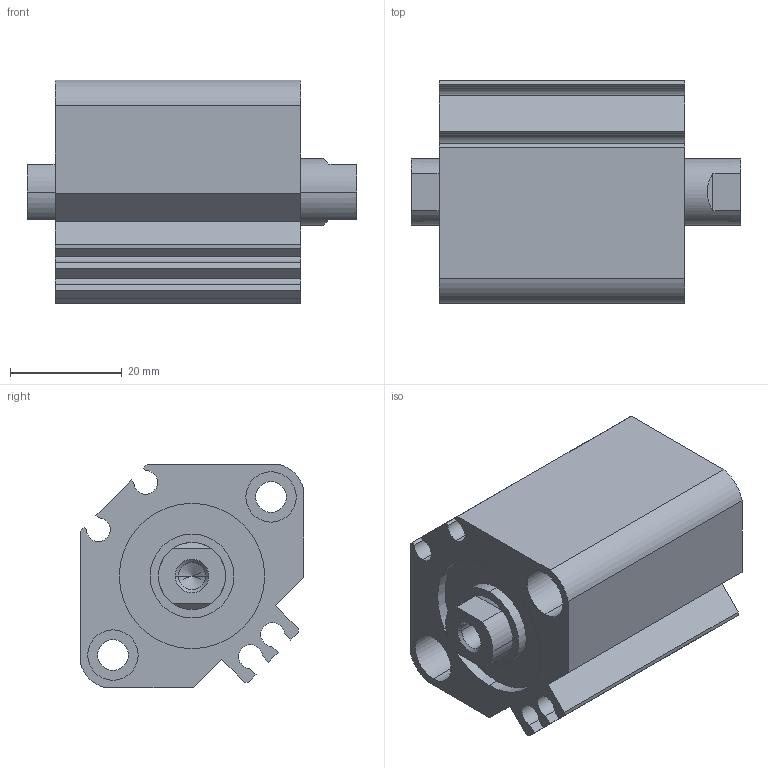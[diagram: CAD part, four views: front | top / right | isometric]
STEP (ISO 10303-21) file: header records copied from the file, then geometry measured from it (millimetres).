
FILE_DESCRIPTION (( 'STEP AP203' ), '1' );
FILE_NAME ('CCMB25-5F-P.STEP', '2020-08-05T11:08:28', ( '' ), ( '' ), 'SwSTEP 2.0', 'SolidWorks 2019', '' );
FILE_SCHEMA (( 'CONFIG_CONTROL_DESIGN' ));
Length unit declared in the file: millimetre
Products named in the file (1): CCMB25-5F-P
Bounding box: 59 x 40 x 40 mm (x, y, z)
Volume: 53490.1 mm3; surface area: 20680.6 mm2
Topology: 2 solids, 2 shells, 114 faces, 276 edges, 178 vertices
Faces by surface type: cylinder 52, plane 50, cone 12
Entity records: 3419 total; most frequent: DIRECTION 614, CARTESIAN_POINT 577, ORIENTED_EDGE 544, EDGE_CURVE 272, AXIS2_PLACEMENT_3D 231, VERTEX_POINT 178, VECTOR 152, LINE 152
